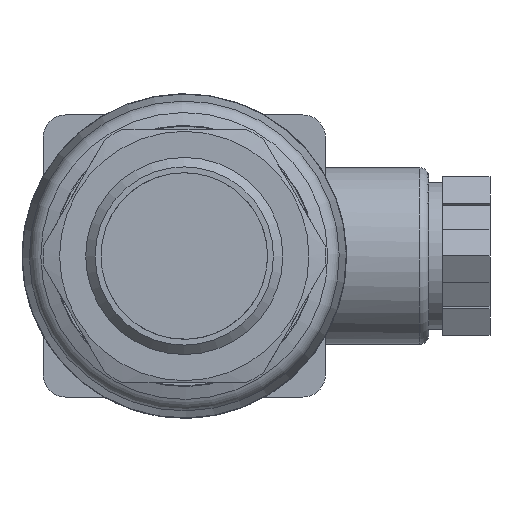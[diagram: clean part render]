
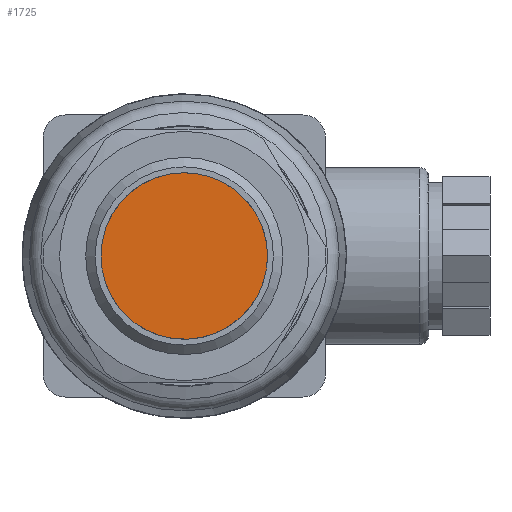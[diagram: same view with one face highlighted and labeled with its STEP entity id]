
A CAD part, left-side view. The second image highlights one B-rep face of the part: STEP entity #1725.
In plain terms, the highlighted planar face has unit normal (-1, 0, 0).
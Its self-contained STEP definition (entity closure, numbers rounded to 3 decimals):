
#510=FACE_OUTER_BOUND('',#623,.T.);
#623=EDGE_LOOP('',(#1230));
#751=CIRCLE('',#1858,8.85);
#823=VERTEX_POINT('',#2563);
#985=EDGE_CURVE('',#823,#823,#751,.T.);
#1230=ORIENTED_EDGE('',*,*,#985,.T.);
#1657=PLANE('',#1857);
#1725=ADVANCED_FACE('',(#510),#1657,.T.);
#1857=AXIS2_PLACEMENT_3D('',#2562,#2077,#2078);
#1858=AXIS2_PLACEMENT_3D('',#2564,#2079,#2080);
#2077=DIRECTION('center_axis',(-1.,0.,0.));
#2078=DIRECTION('ref_axis',(0.,0.889,0.458));
#2079=DIRECTION('center_axis',(-1.,0.,0.));
#2080=DIRECTION('ref_axis',(0.,0.458,-0.889));
#2562=CARTESIAN_POINT('Origin',(-28.93,3.921,-7.615));
#2563=CARTESIAN_POINT('',(-28.93,4.052,-7.868));
#2564=CARTESIAN_POINT('Origin',(-28.93,0.,0.));
